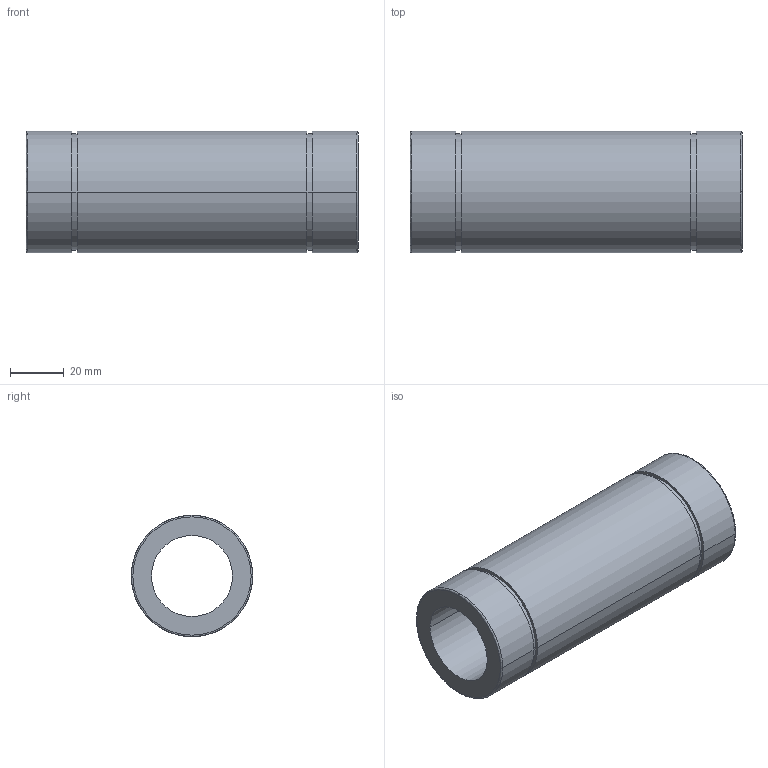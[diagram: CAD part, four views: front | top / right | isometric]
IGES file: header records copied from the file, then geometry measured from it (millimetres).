
Start section: 3D InterOp IGES (Version 21 0 1), Spatial Corp. Copyright (c) 1999-2007.
Global section: file name: NL-30V.igs; native system: Spatial Corp.; preprocessor: 3D InterOp GENERIC/IGES 3.0; author: Noname; organization: Noname; date: 20220311.145625; units: millimetre
Bounding box: 123 x 45 x 45 mm (x, y, z)
Surface area: 31204.2 mm2 (no closed solid volume)
Topology: 0 solids, 0 shells, 22 faces, 100 edges, 100 vertices
Faces by surface type: revolution 16, extrusion 6
